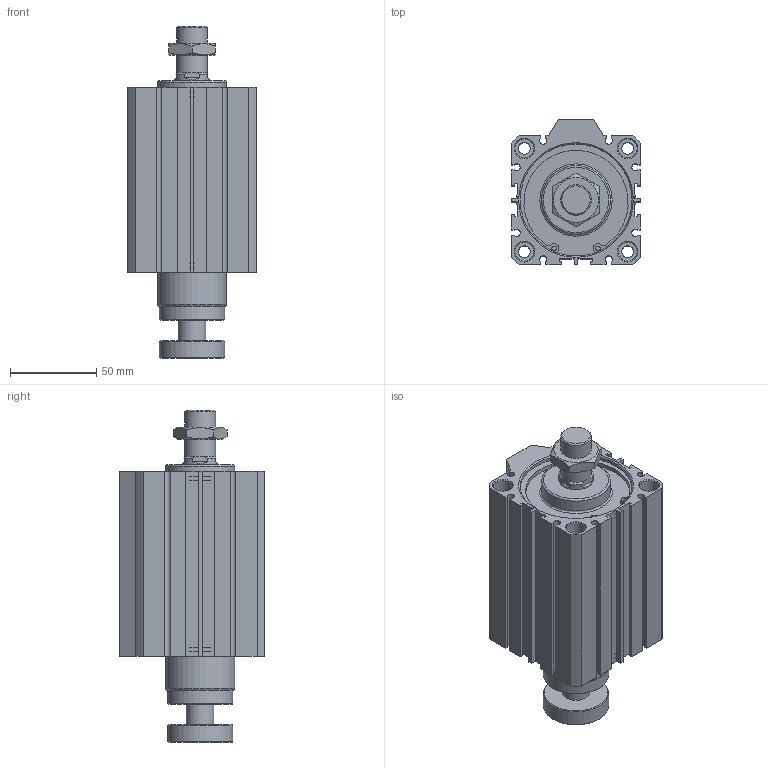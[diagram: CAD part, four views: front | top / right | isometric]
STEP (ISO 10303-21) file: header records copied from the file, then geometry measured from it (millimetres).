
FILE_DESCRIPTION((''),'2;1');
FILE_NAME('I:\3D電子目錄\氣缸\JDAR\JDAR-B\JDAR63-B\JDAR63x75-B.stp','2007-05-05T08:31:01',('662F206'),(''),'Autodesk Inventor 11','Autodesk Inventor 11','');
FILE_SCHEMA(('AUTOMOTIVE_DESIGN { 1 0 10303 214 1 1 1 1 }'));
Length unit declared in the file: millimetre
Products named in the file (3): JDAR63-B; R 形環 65
Assembly tree (3 placements, depth 2):
  JDAR63-B
    JDAR63-B
    R 形環 65  x2
Bounding box: 75 x 84.5 x 192.8 mm (x, y, z)
Volume: 617448.9 mm3; surface area: 88196.1 mm2
Topology: 3 solids, 3 shells, 201 faces, 487 edges, 317 vertices
Faces by surface type: plane 117, cylinder 56, cone 24, bspline 2, torus 2
Full cylindrical faces by diameter (mm): 2.7 x4, 3 x2, 6.8 x4, 11 x8, 16 x1, 18 x2, 20 x1, 38 x2, 40 x2, 65 x4, 68 x2
Entity records: 5349 total; most frequent: CARTESIAN_POINT 1011, DIRECTION 894, ORIENTED_EDGE 794, EDGE_CURVE 397, AXIS2_PLACEMENT_3D 324, VERTEX_POINT 291, EDGE_LOOP 280, VECTOR 246
